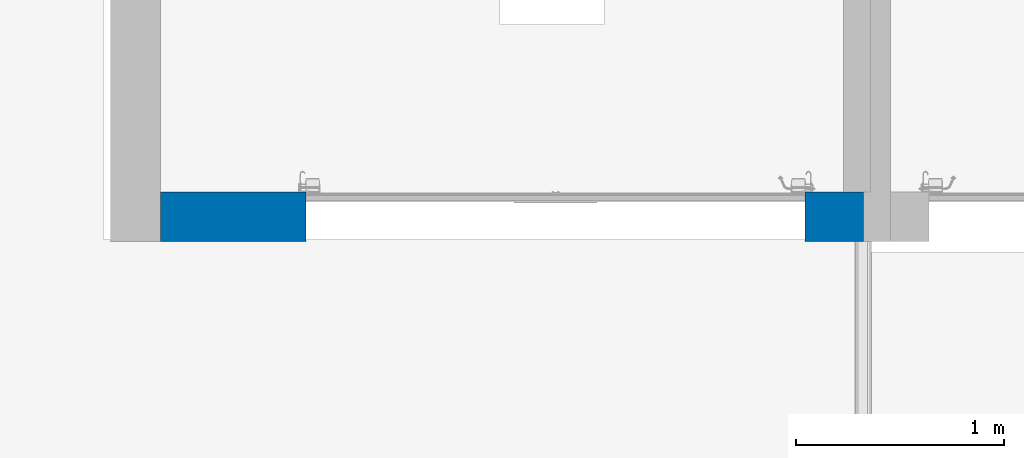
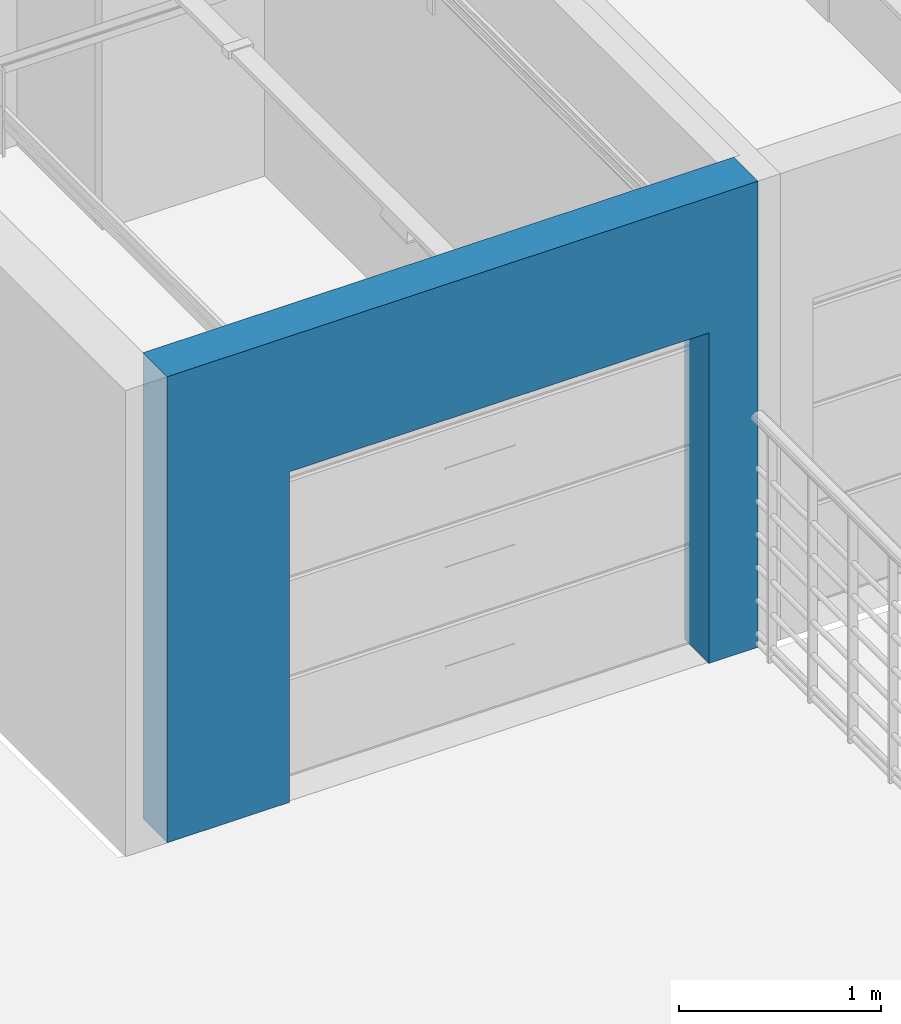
# One storey, part 16 of 30: 1 wall, 1 opening.
"""IFC2X3 building model written with IfcOpenShell, lengths in metres."""

import ifcopenshell
import ifcopenshell.guid

model = None  # the IFC model being written
_history = None  # IfcOwnerHistory: only IFC2X3 demands one
_inside = {}  # id of a spatial element -> (the spatial element, [elements in it])
_under = {}  # id of a project, library or spatial element -> (it, [spatial elements below it])
_declared = {}  # id of a project -> (the project, [libraries it declares])
_typed = {}  # id of a type object -> (the type object, [elements of that type])
_made_of = {}  # id of a material, layer set ... -> (it, [elements and type objects made of it])


def new_model(schema):
    """Start an empty IFC model of exactly this schema.

    Asked for "IFC4X3", IfcOpenShell would pick the latest addendum, in which some entities
    have other attributes; the version numbers below select the first issue.
    IFC2X3 requires an IfcOwnerHistory on every rooted entity: one is made here for all.
    """
    global model, _history
    if schema == "IFC4X3":
        model = ifcopenshell.file(schema_version=(4, 3, 0, 0))
    else:
        model = ifcopenshell.file(schema=schema)
    _inside.clear()
    _under.clear()
    _declared.clear()
    _typed.clear()
    _made_of.clear()
    _history = None
    if model.schema == "IFC2X3":
        org = make("IfcOrganization", Name="unknown")
        user = make(
            "IfcPersonAndOrganization",
            ThePerson=make("IfcPerson", FamilyName="unknown"),
            TheOrganization=org,
        )
        app = make(
            "IfcApplication",
            ApplicationDeveloper=org,
            Version="unknown",
            ApplicationFullName="unknown",
            ApplicationIdentifier="unknown",
        )
        _history = make(
            "IfcOwnerHistory",
            OwningUser=user,
            OwningApplication=app,
            ChangeAction="ADDED",
            CreationDate=0,
        )
    return model


def make(cls, **values):
    """One entity of the class cls with the attributes given. An attribute that is None is left unset."""
    return model.create_entity(
        cls, **{name: value for name, value in values.items() if value is not None}
    )


def entity(cls, *values):
    """Any entity or typed value of the class cls, its attributes in the order of the schema. None: left unset."""
    e = model.create_entity(cls)
    for i, value in enumerate(values):
        if value is not None:
            e[i] = value
    return e


def rooted(cls, **values):
    """An entity with a GlobalId (a new one), such as an element, a storey or a relation."""
    return make(cls, GlobalId=ifcopenshell.guid.new(), OwnerHistory=_history, **values)


def si_unit(unit_type, name, prefix=None):
    """IfcSIUnit, for example si_unit("LENGTHUNIT", "METRE", prefix="MILLI")."""
    return make("IfcSIUnit", UnitType=unit_type, Prefix=prefix, Name=name)


def converted_unit(unit_type, name, factor, base, dimensions=None, offset=None):
    """IfcConversionBasedUnit, such as the inch: factor (a typed value) times the base unit."""
    return make(
        "IfcConversionBasedUnit"
        if offset is None
        else "IfcConversionBasedUnitWithOffset",
        ConversionOffset=offset,
        Dimensions=None
        if dimensions is None
        else entity("IfcDimensionalExponents", *dimensions),
        UnitType=unit_type,
        Name=name,
        ConversionFactor=make(
            "IfcMeasureWithUnit", ValueComponent=factor, UnitComponent=base
        ),
    )


def derived_unit(unit_type, elements):
    """IfcDerivedUnit: a product of units, each with its exponent."""
    return make(
        "IfcDerivedUnit",
        Elements=[
            make("IfcDerivedUnitElement", Unit=unit, Exponent=power)
            for unit, power in elements
        ],
        UnitType=unit_type,
    )


def assignment(units):
    """IfcUnitAssignment: the units of a project."""
    return None if units is None else make("IfcUnitAssignment", Units=units)


def point(xyz):
    """IfcCartesianPoint."""
    return None if xyz is None else make("IfcCartesianPoint", Coordinates=xyz)


def direction(xyz):
    """IfcDirection."""
    return None if xyz is None else make("IfcDirection", DirectionRatios=xyz)


def frame(location, z_axis=None, x_axis=None):
    """IfcAxis2Placement3D, a coordinate frame: its origin and axes. An axis left out is left unset."""
    return make(
        "IfcAxis2Placement3D",
        Location=point(location),
        Axis=direction(z_axis),
        RefDirection=direction(x_axis),
    )


def frame_2d(location, x_axis=None):
    """IfcAxis2Placement2D, a coordinate frame in the plane: its origin and x axis."""
    return make(
        "IfcAxis2Placement2D", Location=point(location), RefDirection=direction(x_axis)
    )


def origin():
    """The frame at (0, 0, 0) with its axes left unset."""
    return frame((0.0, 0.0, 0.0))


def place(relative_to, where):
    """IfcLocalPlacement: puts the frame where relative to a parent placement (None: the world)."""
    return make(
        "IfcLocalPlacement", PlacementRelTo=relative_to, RelativePlacement=where
    )


def context(
    kind, dimensions, precision=None, world=None, true_north=None, identifier=None
):
    """IfcGeometricRepresentationContext, for example the 3D "Model" context."""
    return make(
        "IfcGeometricRepresentationContext",
        ContextIdentifier=identifier,
        ContextType=kind,
        CoordinateSpaceDimension=dimensions,
        Precision=precision,
        WorldCoordinateSystem=world,
        TrueNorth=true_north,
    )


def subcontext(parent, identifier, kind, view, scale=None):
    """IfcGeometricRepresentationSubContext, for example "Body" below "Model"."""
    return make(
        "IfcGeometricRepresentationSubContext",
        ContextIdentifier=identifier,
        ContextType=kind,
        ParentContext=parent,
        TargetScale=scale,
        TargetView=view,
    )


def project(units=None, contexts=None):
    """IfcProject with its units and contexts."""
    return rooted(
        "IfcProject",
        Name="project",
        RepresentationContexts=contexts,
        UnitsInContext=assignment(units),
    )


def spatial(cls, under=None, at=None, **own):
    """A site, building, storey or space (cls), placed at a placement, below another one or the project."""
    s = rooted(cls, ObjectPlacement=at, **own)
    if under is not None:
        _under.setdefault(under.id(), (under, []))[1].append(s)
    return s


def profile(cls, at=None, kind="AREA", **sizes):
    """A parametric profile (cls). Its sizes go by their IFC names, for example OverallWidth=200.0."""
    return make(cls, ProfileType=kind, Position=at, **sizes)


def rectangle(**sizes):
    """IfcRectangleProfileDef."""
    return profile("IfcRectangleProfileDef", **sizes)


def extrude(swept, where, along, depth):
    """IfcExtrudedAreaSolid: the profile swept, set in the frame where, extruded along a direction by depth."""
    return make(
        "IfcExtrudedAreaSolid",
        SweptArea=swept,
        Position=where,
        ExtrudedDirection=direction(along),
        Depth=depth,
    )


def shape(context_of_items, identifier, shape_type, items):
    """IfcShapeRepresentation: the items that make up one representation, for example the "Body"."""
    return make(
        "IfcShapeRepresentation",
        ContextOfItems=context_of_items,
        RepresentationIdentifier=identifier,
        RepresentationType=shape_type,
        Items=items,
    )


def material(Name=None, Category=None):
    """IfcMaterial."""
    return make("IfcMaterial", Name=Name, Category=Category)


def layer(
    of_material, thickness, ventilated=None, Name=None, Category=None, Priority=None
):
    """IfcMaterialLayer: one layer of a wall or slab, of a material (None: an air gap)."""
    return make(
        "IfcMaterialLayer",
        Material=of_material,
        LayerThickness=thickness,
        IsVentilated=ventilated,
        Name=Name,
        Category=Category,
        Priority=Priority,
    )


def layer_set(layers, Name=None):
    """IfcMaterialLayerSet."""
    return make("IfcMaterialLayerSet", MaterialLayers=layers, LayerSetName=Name)


def layer_usage(for_layer_set, set_direction, sense, offset, extent=None):
    """IfcMaterialLayerSetUsage: how a layer set lies in its element."""
    return make(
        "IfcMaterialLayerSetUsage",
        ForLayerSet=for_layer_set,
        LayerSetDirection=set_direction,
        DirectionSense=sense,
        OffsetFromReferenceLine=offset,
        ReferenceExtent=extent,
    )


def made_of(thing, what):
    """Note that an element or type object is made of a material, layer set ...; save() writes the relation."""
    if what is not None:
        _made_of.setdefault(what.id(), (what, []))[1].append(thing)
    return thing


def type_object(cls, material=None, **own):
    """A type object (cls), such as IfcWallType, which elements share."""
    return made_of(rooted(cls, **own), material)


def element(
    cls,
    number,
    at=None,
    inside=None,
    cuts=None,
    type_object=None,
    material=None,
    context=None,
    identifier="Body",
    shape_type=None,
    held_by="IfcProductDefinitionShape",
    body=None,
    shapes=None,
    **own,
):
    """One element of the class cls, such as IfcWall. Its Tag is "e" and its number.

    at: its placement. inside: the storey or other place that contains it. cuts: it is an
    opening in that element (IfcRelVoidsElement). A single representation is given by context,
    identifier, shape_type and body (its items); several are given by shapes. held_by: the class
    of the entity that holds the representations. save() writes the other relations.
    """
    e = rooted(cls, Tag="e%d" % number, ObjectPlacement=at, **own)
    if body is not None:
        shapes = [shape(context, identifier, shape_type, body)]
    if shapes is not None:
        e.Representation = make(held_by, Representations=shapes)
    if inside is not None:
        _inside.setdefault(inside.id(), (inside, []))[1].append(e)
    if cuts is not None:
        rooted(
            "IfcRelVoidsElement", RelatingBuildingElement=cuts, RelatedOpeningElement=e
        )
    if type_object is not None:
        _typed.setdefault(type_object.id(), (type_object, []))[1].append(e)
    return made_of(e, material)


def aggregate(whole, parts):
    """IfcRelAggregates: a whole, such as a stair, and the parts it consists of."""
    return rooted("IfcRelAggregates", RelatingObject=whole, RelatedObjects=parts)


def save(model, path):
    """Write the relations noted so far, then the file.

    IfcRelAggregates (storeys below a building ...), IfcRelContainedInSpatialStructure (elements
    in a storey), IfcRelDefinesByType, IfcRelAssociatesMaterial and IfcRelDeclares: one each for
    every whole, place, type object, material and project.
    """
    for whole, parts in _under.values():
        aggregate(whole, parts)
    for where, things in _inside.values():
        rooted(
            "IfcRelContainedInSpatialStructure",
            RelatedElements=things,
            RelatingStructure=where,
        )
    for kind, things in _typed.values():
        rooted("IfcRelDefinesByType", RelatedObjects=things, RelatingType=kind)
    for what, things in _made_of.values():
        rooted("IfcRelAssociatesMaterial", RelatedObjects=things, RelatingMaterial=what)
    for by, libraries in _declared.values():
        rooted("IfcRelDeclares", RelatingContext=by, RelatedDefinitions=libraries)
    model.write(path)


model = new_model("IFC2X3")

# Units and contexts
model_context = context("Model", 3, precision=1e-05, world=origin(), true_north=direction((6.12303176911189e-17, 1.0)))
body_context = subcontext(model_context, "Body", "Model", "MODEL_VIEW")
ifc_project = project(units=[si_unit("LENGTHUNIT", "METRE"), si_unit("AREAUNIT", "SQUARE_METRE"), si_unit("VOLUMEUNIT", "CUBIC_METRE"), converted_unit("PLANEANGLEUNIT", "DEGREE", entity("IfcRatioMeasure", 0.0174532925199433), si_unit("PLANEANGLEUNIT", "RADIAN"), dimensions=[0, 0, 0, 0, 0, 0, 0]), si_unit("MASSUNIT", "GRAM", prefix="KILO"), derived_unit("MASSDENSITYUNIT", [(si_unit("MASSUNIT", "GRAM", prefix="KILO"), 1), (si_unit("LENGTHUNIT", "METRE"), -3)]), si_unit("TIMEUNIT", "SECOND"), si_unit("FREQUENCYUNIT", "HERTZ"), si_unit("THERMODYNAMICTEMPERATUREUNIT", "DEGREE_CELSIUS"), derived_unit("THERMALTRANSMITTANCEUNIT", [(si_unit("MASSUNIT", "GRAM", prefix="KILO"), 1), (si_unit("THERMODYNAMICTEMPERATUREUNIT", "KELVIN"), -1), (si_unit("TIMEUNIT", "SECOND"), -3)]), derived_unit("VOLUMETRICFLOWRATEUNIT", [(si_unit("LENGTHUNIT", "METRE"), 3), (si_unit("TIMEUNIT", "SECOND"), -1)]), si_unit("ELECTRICCURRENTUNIT", "AMPERE"), si_unit("ELECTRICVOLTAGEUNIT", "VOLT"), si_unit("POWERUNIT", "WATT"), si_unit("FORCEUNIT", "NEWTON", prefix="KILO"), si_unit("ILLUMINANCEUNIT", "LUX"), si_unit("LUMINOUSFLUXUNIT", "LUMEN"), si_unit("LUMINOUSINTENSITYUNIT", "CANDELA"), derived_unit("USERDEFINED", [(si_unit("MASSUNIT", "GRAM", prefix="KILO"), -1), (si_unit("LENGTHUNIT", "METRE"), -2), (si_unit("TIMEUNIT", "SECOND"), 3), (si_unit("LUMINOUSFLUXUNIT", "LUMEN"), 1)]), derived_unit("LINEARVELOCITYUNIT", [(si_unit("LENGTHUNIT", "METRE"), 1), (si_unit("TIMEUNIT", "SECOND"), -1)]), si_unit("PRESSUREUNIT", "PASCAL"), derived_unit("USERDEFINED", [(si_unit("LENGTHUNIT", "METRE"), -2), (si_unit("MASSUNIT", "GRAM", prefix="KILO"), 1), (si_unit("TIMEUNIT", "SECOND"), -2)])], contexts=[model_context])

# Site, building, storey
site_placement = place(None, origin())
site = spatial("IfcSite", under=ifc_project, at=site_placement, Name="Surface", CompositionType="ELEMENT")
building_placement = place(site_placement, origin())
building = spatial("IfcBuilding", under=site, at=building_placement, CompositionType="ELEMENT")
storey_placement = place(building_placement, origin())
storey = spatial("IfcBuildingStorey", under=building, at=storey_placement, Name="Plan des fondations  Maisons 1 et 2", CompositionType="ELEMENT", Elevation=0.0)

# Wall, opening
ifc_material_1 = material(Name="Enduit  gris")
ifc_layer_1 = layer(ifc_material_1, 0.02)
ifc_material_2 = material(Name="Parpaing")
ifc_layer_2 = layer(ifc_material_2, 0.2)
ifc_layer_3 = layer(ifc_material_1, 0.02)
ifc_layer_set = layer_set([ifc_layer_1, ifc_layer_2, ifc_layer_3], Name="Mur de base:Ext. Parpaing 2 + 20 + 2 gris")
ifc_layer_usage = layer_usage(ifc_layer_set, "AXIS2", "POSITIVE", -0.12)
wall_type = type_object("IfcWallType", Name="Mur de base:Ext. Parpaing 2 + 20 + 2 gris", PredefinedType="STANDARD", material=ifc_layer_set)
wall_placement = place(storey_placement, frame((83.7117857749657, 81.0475239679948, 0.0), z_axis=(0.0, 0.0, 1.0), x_axis=(-1.0, 0.0, 0.0)))
wall = element("IfcWallStandardCase", 1, at=wall_placement, inside=storey, type_object=wall_type, material=ifc_layer_usage, Name="Mur de base:Ext. Parpaing 2 + 20 + 2 gris", ObjectType="Mur de base:Ext. Parpaing 2 + 20 + 2 gris", context=body_context, shape_type="SweptSolid", body=[
    extrude(rectangle(XDim=3.38076681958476, YDim=0.240000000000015, at=frame_2d((1.69038340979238, 0.0), x_axis=(-1.0, 0.0))), origin(), (0.0, 0.0, 1.0), 2.82),
])
opening_placement = place(wall_placement, frame((2.68076681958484, 0.120000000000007, 0.0)))
element("IfcOpeningElement", 2, at=opening_placement, cuts=wall, Name="Landscaping-Gates- La Toulousaine-La_Toulousaine-Porte_de_garage_HARMONIE_ESQUIF:Landscaping-Gates- La Toulousaine-La_Toulousaine-Porte_de_garage_HARMONIE_ESQUIF 2.00 larg x 2.40 ht:1", ObjectType="Opening", context=body_context, shape_type="SweptSolid", body=[
    extrude(rectangle(XDim=2.0, YDim=2.4, at=frame_2d((1.0, 1.2), x_axis=(1.0, 0.0))), frame((0.0, 0.0, 0.0), z_axis=(0.0, -1.0, 0.0), x_axis=(0.0, 0.0, 1.0)), (0.0, 0.0, 1.0), 0.24),
])

save(model, "model.ifc")
